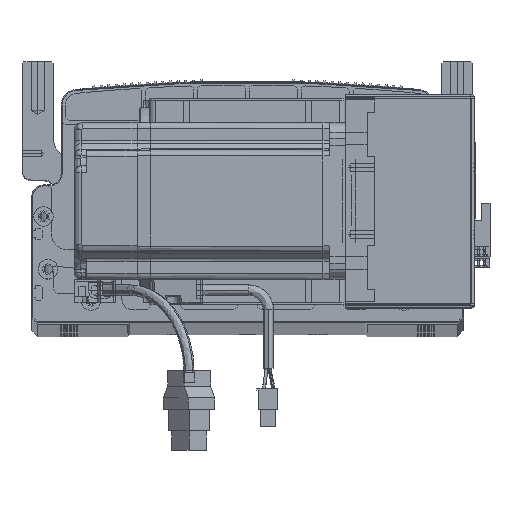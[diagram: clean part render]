
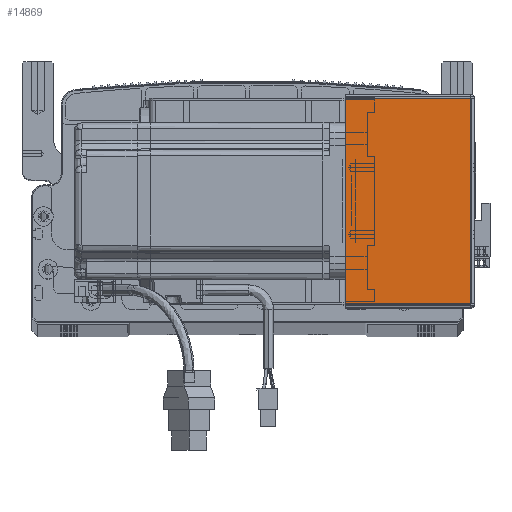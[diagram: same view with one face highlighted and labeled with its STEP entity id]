
A CAD part, top view. The second image highlights one B-rep face of the part: STEP entity #14869.
In plain terms, the highlighted planar face has unit normal (0, 0, 1) as drawn and (0, 0, -1) by its records, which use the part's own axes.
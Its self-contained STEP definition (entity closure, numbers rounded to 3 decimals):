
#4486 = PLANE ( 'NONE',  #11651 ) ;
#8532 = ORIENTED_EDGE ( 'NONE', *, *, #93307, .F. ) ;
#11651 = AXIS2_PLACEMENT_3D ( 'NONE', #53304, #68694, #99775 ) ;
#14869 = ADVANCED_FACE ( 'NONE', ( #44432 ), #4486, .F. ) ;
#15815 = LINE ( 'NONE', #40742, #32087 ) ;
#19152 = VERTEX_POINT ( 'NONE', #79709 ) ;
#22082 = CARTESIAN_POINT ( 'NONE',  ( 0.737, 0.707, -205.5 ) ) ;
#24750 = CARTESIAN_POINT ( 'NONE',  ( 0., 0.707, -205.5 ) ) ;
#25385 = DIRECTION ( 'NONE',  ( 0., -1., 0. ) ) ;
#29673 = EDGE_LOOP ( 'NONE', ( #30653, #40060, #43447, #8532 ) ) ;
#30653 = ORIENTED_EDGE ( 'NONE', *, *, #50898, .F. ) ;
#32087 = VECTOR ( 'NONE', #25385, 1000. ) ;
#32506 = DIRECTION ( 'NONE',  ( 1., 0., 0. ) ) ;
#34998 = VERTEX_POINT ( 'NONE', #43860 ) ;
#40060 = ORIENTED_EDGE ( 'NONE', *, *, #69401, .T. ) ;
#40742 = CARTESIAN_POINT ( 'NONE',  ( 64.5, 0., -205.5 ) ) ;
#43447 = ORIENTED_EDGE ( 'NONE', *, *, #47709, .T. ) ;
#43860 = CARTESIAN_POINT ( 'NONE',  ( 64.5, 0.707, -205.5 ) ) ;
#44243 = VERTEX_POINT ( 'NONE', #86063 ) ;
#44432 = FACE_OUTER_BOUND ( 'NONE', #29673, .T. ) ;
#45182 = VECTOR ( 'NONE', #32506, 1000. ) ;
#47709 = EDGE_CURVE ( 'NONE', #19152, #34998, #15815, .T. ) ;
#48132 = DIRECTION ( 'NONE',  ( 0., -1., 0. ) ) ;
#50898 = EDGE_CURVE ( 'NONE', #44243, #88560, #89082, .T. ) ;
#53304 = CARTESIAN_POINT ( 'NONE',  ( 0., 0., -205.5 ) ) ;
#55190 = LINE ( 'NONE', #24750, #45182 ) ;
#64513 = CARTESIAN_POINT ( 'NONE',  ( 0.737, 0., -205.5 ) ) ;
#66719 = VECTOR ( 'NONE', #101646, 1000. ) ;
#68694 = DIRECTION ( 'NONE',  ( 0., 0., 1. ) ) ;
#69401 = EDGE_CURVE ( 'NONE', #44243, #19152, #71720, .T. ) ;
#70330 = VECTOR ( 'NONE', #48132, 1000. ) ;
#71720 = LINE ( 'NONE', #93949, #66719 ) ;
#79709 = CARTESIAN_POINT ( 'NONE',  ( 64.5, 105.293, -205.5 ) ) ;
#86063 = CARTESIAN_POINT ( 'NONE',  ( 0.737, 105.293, -205.5 ) ) ;
#88560 = VERTEX_POINT ( 'NONE', #22082 ) ;
#89082 = LINE ( 'NONE', #64513, #70330 ) ;
#93307 = EDGE_CURVE ( 'NONE', #88560, #34998, #55190, .T. ) ;
#93949 = CARTESIAN_POINT ( 'NONE',  ( 0., 105.293, -205.5 ) ) ;
#99775 = DIRECTION ( 'NONE',  ( 1., 0., 0. ) ) ;
#101646 = DIRECTION ( 'NONE',  ( 1., 0., 0. ) ) ;
